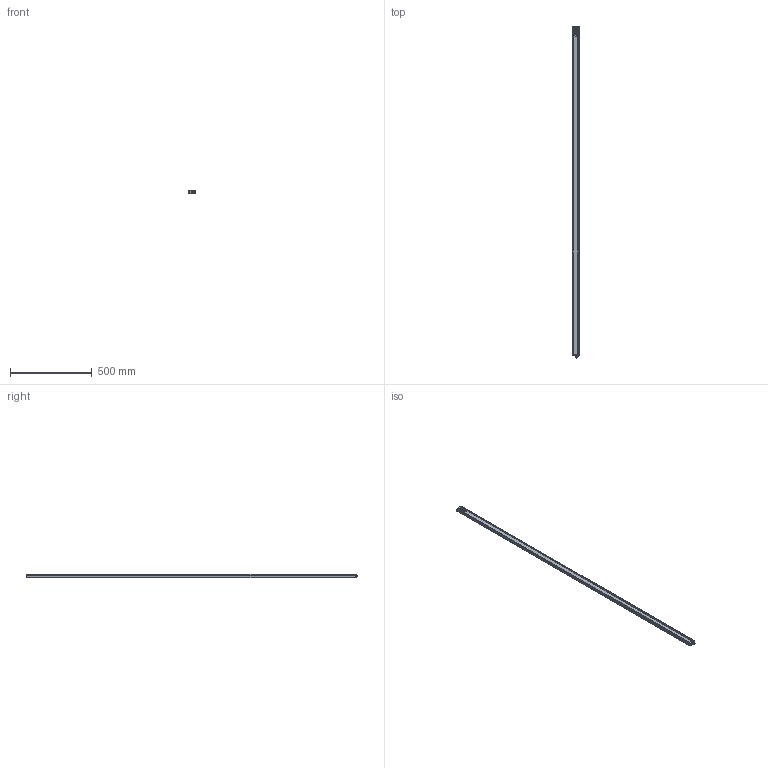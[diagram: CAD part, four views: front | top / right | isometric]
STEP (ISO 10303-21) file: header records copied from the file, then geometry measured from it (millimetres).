
FILE_DESCRIPTION(/* description */ (''),/* implementation_level */ '2;1');
FILE_NAME(/* name */ 'C:\Users\andre\SynologyDrive\Optoscan\Libreria Componenti\00 - Barriere\Barriera sorgente\Argo_2000_RX.stp',/* time_stamp */ '2021-04-22T12:26:16+02:00',/* author */ ('andre'),/* organization */ (''),/* preprocessor_version */ 'ST-DEVELOPER v18',/* originating_system */ 'Autodesk Inventor 2020',/* authorisation */ '');
FILE_SCHEMA (('AUTOMOTIVE_DESIGN { 1 0 10303 214 3 1 1 }'));
Length unit declared in the file: millimetre
Products named in the file (1): Argo_2000_RX
Bounding box: 40.5 x 2033.3 x 20.75 mm (x, y, z)
Volume: 400508.7 mm3; surface area: 531321.4 mm2
Topology: 1 solids, 1 shells, 692 faces, 1898 edges, 1217 vertices
Faces by surface type: plane 319, cylinder 195, bspline 94, torus 70, cone 8, sphere 6
Full cylindrical faces by diameter (mm): 1 x4, 2.459 x4, 2.5 x4, 3 x4, 3.5 x4, 5.5 x4, 8 x1, 10.5 x2, 11.75 x9, 15.7 x1, 17.5 x1
Entity records: 28165 total; most frequent: CARTESIAN_POINT 10195, ORIENTED_EDGE 3778, DIRECTION 3387, EDGE_CURVE 1889, VERTEX_POINT 1217, AXIS2_PLACEMENT_3D 1183, LINE 1021, VECTOR 1021
